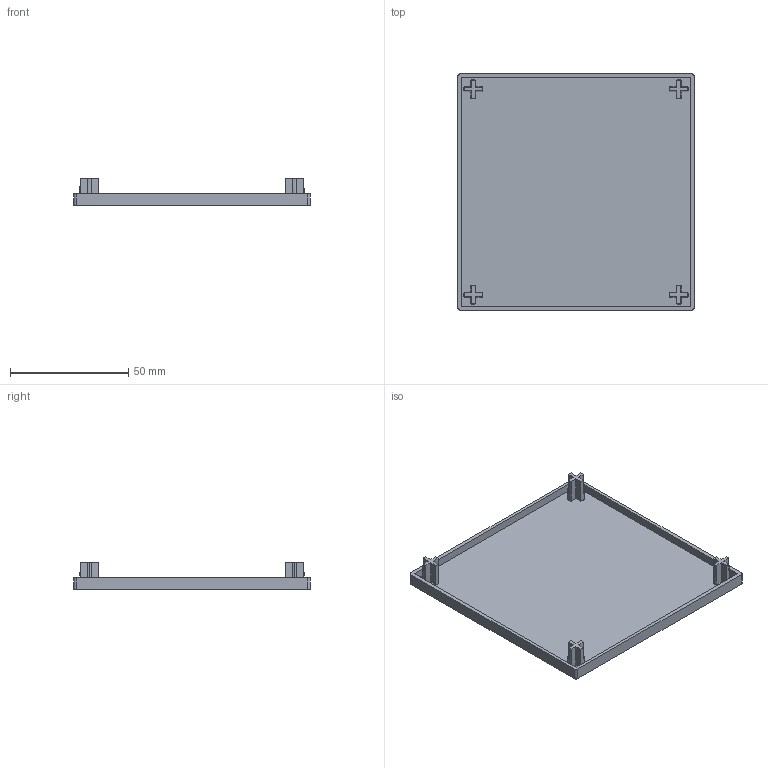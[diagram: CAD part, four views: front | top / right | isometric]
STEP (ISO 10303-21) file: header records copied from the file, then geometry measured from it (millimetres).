
FILE_DESCRIPTION (( 'STEP AP203' ), '1' );
FILE_NAME ('EC100100-8.STEP', '2024-02-19T05:59:12', ( '' ), ( '' ), 'SwSTEP 2.0', 'SolidWorks 2022', '' );
FILE_SCHEMA (( 'CONFIG_CONTROL_DESIGN' ));
Length unit declared in the file: millimetre
Products named in the file (1): EC100100-8
Bounding box: 100 x 100 x 11.5 mm (x, y, z)
Volume: 18034.3 mm3; surface area: 24543.8 mm2
Topology: 1 solids, 1 shells, 71 faces, 192 edges, 128 vertices
Faces by surface type: plane 47, cone 20, cylinder 4
Entity records: 2439 total; most frequent: CARTESIAN_POINT 584, ORIENTED_EDGE 384, DIRECTION 352, EDGE_CURVE 192, VERTEX_POINT 128, AXIS2_PLACEMENT_3D 120, LINE 112, VECTOR 112
